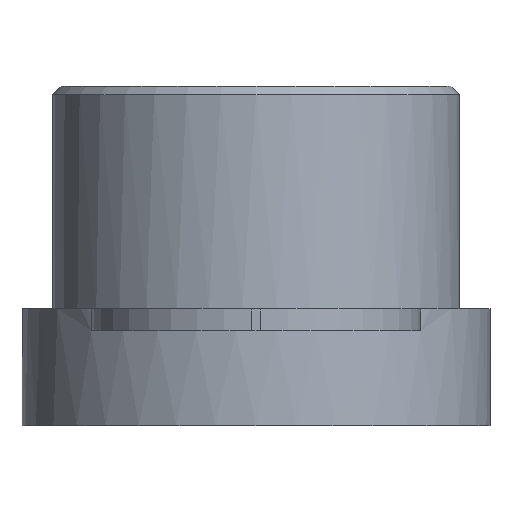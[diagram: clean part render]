
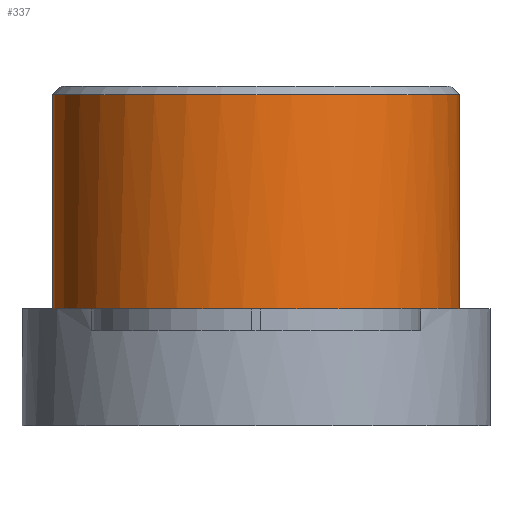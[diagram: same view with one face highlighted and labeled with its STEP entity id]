
A CAD part, front view. The second image highlights one B-rep face of the part: STEP entity #337.
In plain terms, the highlighted cylindrical face has radius 2.35 mm (diameter 4.7 mm), a full revolution.
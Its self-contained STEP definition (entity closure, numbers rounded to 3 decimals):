
#15=CYLINDRICAL_SURFACE('',#378,2.35);
#36=FACE_OUTER_BOUND('',#55,.T.);
#55=EDGE_LOOP('',(#247,#248,#249,#250,#251,#252,#253,#254));
#75=LINE('',#546,#104);
#76=LINE('',#548,#105);
#77=LINE('',#551,#106);
#104=VECTOR('',#437,2.35);
#105=VECTOR('',#438,10.);
#106=VECTOR('',#441,10.);
#130=CIRCLE('',#369,2.35);
#135=CIRCLE('',#376,2.35);
#136=CIRCLE('',#377,2.35);
#137=CIRCLE('',#379,2.35);
#151=VERTEX_POINT('',#522);
#153=VERTEX_POINT('',#528);
#159=VERTEX_POINT('',#540);
#160=VERTEX_POINT('',#542);
#161=VERTEX_POINT('',#547);
#162=VERTEX_POINT('',#549);
#185=EDGE_CURVE('',#151,#151,#130,.T.);
#193=EDGE_CURVE('',#159,#160,#135,.T.);
#194=EDGE_CURVE('',#160,#153,#136,.T.);
#195=EDGE_CURVE('',#151,#160,#75,.T.);
#196=EDGE_CURVE('',#161,#159,#76,.T.);
#197=EDGE_CURVE('',#162,#161,#137,.T.);
#198=EDGE_CURVE('',#153,#162,#77,.T.);
#247=ORIENTED_EDGE('',*,*,#185,.F.);
#248=ORIENTED_EDGE('',*,*,#195,.T.);
#249=ORIENTED_EDGE('',*,*,#193,.F.);
#250=ORIENTED_EDGE('',*,*,#196,.F.);
#251=ORIENTED_EDGE('',*,*,#197,.F.);
#252=ORIENTED_EDGE('',*,*,#198,.F.);
#253=ORIENTED_EDGE('',*,*,#194,.F.);
#254=ORIENTED_EDGE('',*,*,#195,.F.);
#337=ADVANCED_FACE('',(#36),#15,.T.);
#369=AXIS2_PLACEMENT_3D('',#524,#414,#415);
#376=AXIS2_PLACEMENT_3D('',#543,#431,#432);
#377=AXIS2_PLACEMENT_3D('',#544,#433,#434);
#378=AXIS2_PLACEMENT_3D('',#545,#435,#436);
#379=AXIS2_PLACEMENT_3D('',#550,#439,#440);
#414=DIRECTION('center_axis',(0.,0.,1.));
#415=DIRECTION('ref_axis',(1.,0.,0.));
#431=DIRECTION('center_axis',(0.,0.,-1.));
#432=DIRECTION('ref_axis',(1.,0.,0.));
#433=DIRECTION('center_axis',(0.,0.,-1.));
#434=DIRECTION('ref_axis',(1.,0.,0.));
#435=DIRECTION('center_axis',(0.,0.,1.));
#436=DIRECTION('ref_axis',(1.,0.,0.));
#437=DIRECTION('',(0.,0.,-1.));
#438=DIRECTION('',(0.,0.,-1.));
#439=DIRECTION('center_axis',(0.,0.,-1.));
#440=DIRECTION('ref_axis',(1.,0.,0.));
#441=DIRECTION('',(0.,0.,1.));
#522=CARTESIAN_POINT('',(-2.35,2.,0.32));
#524=CARTESIAN_POINT('Origin',(0.,2.,0.32));
#528=CARTESIAN_POINT('',(-2.017,3.205,-2.151));
#540=CARTESIAN_POINT('',(2.017,3.205,-2.151));
#542=CARTESIAN_POINT('',(-2.35,2.,-2.151));
#543=CARTESIAN_POINT('Origin',(0.,2.,-2.151));
#544=CARTESIAN_POINT('Origin',(0.,2.,-2.151));
#545=CARTESIAN_POINT('Origin',(0.,2.,-0.916));
#546=CARTESIAN_POINT('',(-2.35,2.,-0.916));
#547=CARTESIAN_POINT('',(2.017,3.205,-2.15));
#548=CARTESIAN_POINT('',(2.017,3.205,-0.916));
#549=CARTESIAN_POINT('',(-2.017,3.205,-2.15));
#550=CARTESIAN_POINT('Origin',(0.,2.,-2.15));
#551=CARTESIAN_POINT('',(-2.017,3.205,-0.916));
